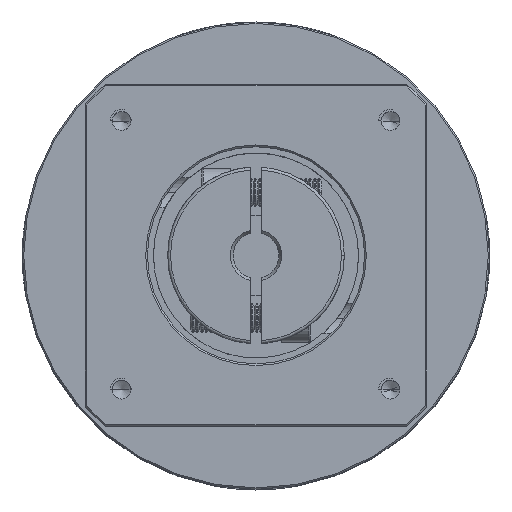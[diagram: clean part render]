
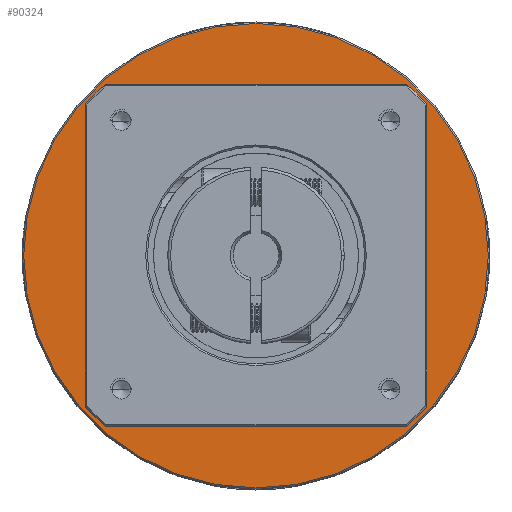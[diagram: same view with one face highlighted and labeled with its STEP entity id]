
A CAD part, top view. The second image highlights one B-rep face of the part: STEP entity #90324.
In plain terms, the highlighted planar face has unit normal (0, 0, 1).
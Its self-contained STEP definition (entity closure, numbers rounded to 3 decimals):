
#4541 = DIRECTION ( 'NONE',  ( 1., 0., 0. ) ) ;
#8723 = AXIS2_PLACEMENT_3D ( 'NONE', #97765, #42861, #106856 ) ;
#12798 = ORIENTED_EDGE ( 'NONE', *, *, #26468, .T. ) ;
#13440 = PLANE ( 'NONE',  #107631 ) ;
#14773 = CARTESIAN_POINT ( 'NONE',  ( -58.531, 59.072, -38.007 ) ) ;
#15994 = CARTESIAN_POINT ( 'NONE',  ( -58.531, 18.322, -38.007 ) ) ;
#17568 = AXIS2_PLACEMENT_3D ( 'NONE', #15994, #80150, #25259 ) ;
#25259 = DIRECTION ( 'NONE',  ( -1., 0., 0. ) ) ;
#25457 = VERTEX_POINT ( 'NONE', #26043 ) ;
#26043 = CARTESIAN_POINT ( 'NONE',  ( -88.531, 18.322, -38.007 ) ) ;
#26468 = EDGE_CURVE ( 'NONE', #25457, #88908, #118664, .T. ) ;
#29470 = FACE_BOUND ( 'NONE', #58006, .T. ) ;
#40687 = AXIS2_PLACEMENT_3D ( 'NONE', #47284, #111276, #56447 ) ;
#42861 = DIRECTION ( 'NONE',  ( 0., 0., -1. ) ) ;
#46580 = CARTESIAN_POINT ( 'NONE',  ( -58.531, 18.322, -38.007 ) ) ;
#47284 = CARTESIAN_POINT ( 'NONE',  ( -58.531, 18.322, -38.007 ) ) ;
#48656 = CARTESIAN_POINT ( 'NONE',  ( -58.531, -22.428, -38.007 ) ) ;
#52581 = EDGE_CURVE ( 'NONE', #105296, #92760, #76329, .T. ) ;
#55768 = DIRECTION ( 'NONE',  ( 0., 1., 0. ) ) ;
#56447 = DIRECTION ( 'NONE',  ( -1., 0., 0. ) ) ;
#58006 = EDGE_LOOP ( 'NONE', ( #12798, #86561 ) ) ;
#59461 = DIRECTION ( 'NONE',  ( 0., 0., 1. ) ) ;
#63987 = AXIS2_PLACEMENT_3D ( 'NONE', #46580, #110566, #55768 ) ;
#65854 = CARTESIAN_POINT ( 'NONE',  ( -28.531, 18.322, -38.007 ) ) ;
#70649 = ORIENTED_EDGE ( 'NONE', *, *, #109351, .F. ) ;
#75350 = FACE_OUTER_BOUND ( 'NONE', #97279, .T. ) ;
#76329 = CIRCLE ( 'NONE', #8723, 40.75 ) ;
#76537 = CIRCLE ( 'NONE', #40687, 30. ) ;
#80150 = DIRECTION ( 'NONE',  ( 0., 0., -1. ) ) ;
#86561 = ORIENTED_EDGE ( 'NONE', *, *, #107224, .T. ) ;
#88908 = VERTEX_POINT ( 'NONE', #65854 ) ;
#89232 = CIRCLE ( 'NONE', #63987, 40.75 ) ;
#90324 = ADVANCED_FACE ( 'NONE', ( #75350, #29470 ), #13440, .T. ) ;
#92760 = VERTEX_POINT ( 'NONE', #48656 ) ;
#97279 = EDGE_LOOP ( 'NONE', ( #113858, #70649 ) ) ;
#97765 = CARTESIAN_POINT ( 'NONE',  ( -58.531, 18.322, -38.007 ) ) ;
#105296 = VERTEX_POINT ( 'NONE', #14773 ) ;
#106856 = DIRECTION ( 'NONE',  ( 0., 1., 0. ) ) ;
#107224 = EDGE_CURVE ( 'NONE', #88908, #25457, #76537, .T. ) ;
#107631 = AXIS2_PLACEMENT_3D ( 'NONE', #114283, #59461, #4541 ) ;
#109351 = EDGE_CURVE ( 'NONE', #92760, #105296, #89232, .T. ) ;
#110566 = DIRECTION ( 'NONE',  ( 0., 0., -1. ) ) ;
#111276 = DIRECTION ( 'NONE',  ( 0., 0., -1. ) ) ;
#113858 = ORIENTED_EDGE ( 'NONE', *, *, #52581, .F. ) ;
#114283 = CARTESIAN_POINT ( 'NONE',  ( -58.531, 18.322, -38.007 ) ) ;
#118664 = CIRCLE ( 'NONE', #17568, 30. ) ;
